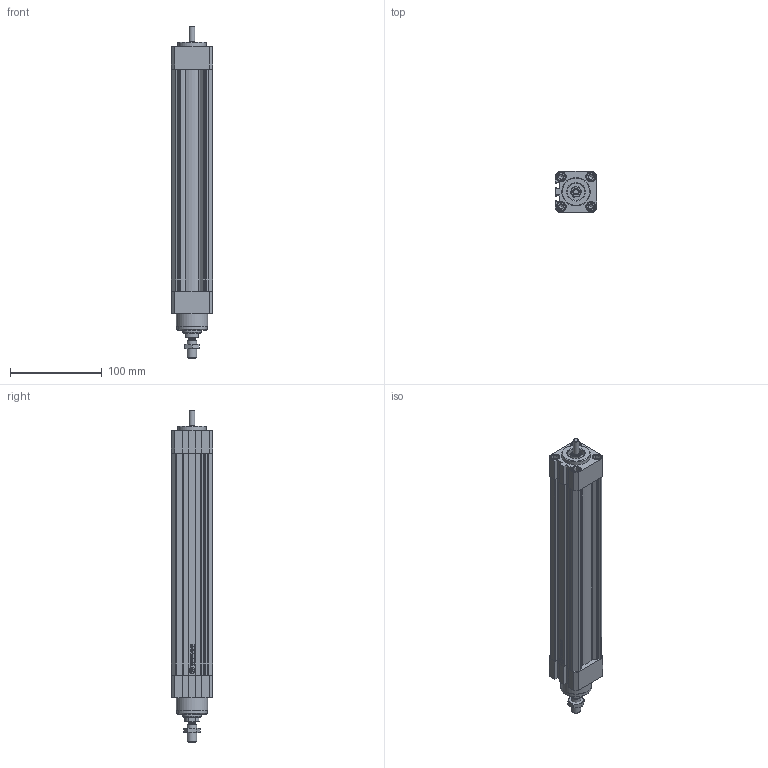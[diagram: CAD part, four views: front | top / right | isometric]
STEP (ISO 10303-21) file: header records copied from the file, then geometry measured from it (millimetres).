
FILE_DESCRIPTION (( 'STEP AP214' ), '1' );
FILE_NAME ('WLA4-032-0160 (3D).STEP', '2024-06-07T11:20:22', ( '' ), ( '' ), 'SwSTEP 2.0', 'SolidWorks 2023', '' );
FILE_SCHEMA (( 'AUTOMOTIVE_DESIGN' ));
Length unit declared in the file: millimetre
Products named in the file (4): Group2^WLA4-032-0160 (3D); Group1^WLA4-032-0160 (3D); Group3^WLA4-032-0160 (3D); WLA4-032-0160 (3D)
Assembly tree (3 placements, depth 2):
  WLA4-032-0160 (3D)
    Group1^WLA4-032-0160 (3D)
    Group2^WLA4-032-0160 (3D)
    Group3^WLA4-032-0160 (3D)
Bounding box: 45 x 45 x 362 mm (x, y, z)
Volume: 546470.7 mm3; surface area: 155733.8 mm2
Topology: 16 solids, 21 shells, 629 faces, 1486 edges, 979 vertices
Faces by surface type: plane 398, cylinder 145, cone 57, torus 17, bspline 12
Full cylindrical faces by diameter (mm): 2 x4, 5 x16, 6 x17, 6.5 x8, 6.6 x1, 7 x4, 7.5 x2, 8.5 x1, 8.566 x1, 9.5 x1, 9.9 x16, 10 x3, 11 x8, 19 x1, 20 x2, 31 x3, 33.5 x1, 34 x1
Entity records: 17583 total; most frequent: CARTESIAN_POINT 3654, DIRECTION 2795, ORIENTED_EDGE 2564, EDGE_CURVE 1282, AXIS2_PLACEMENT_3D 974, VERTEX_POINT 921, EDGE_LOOP 857, VECTOR 847
